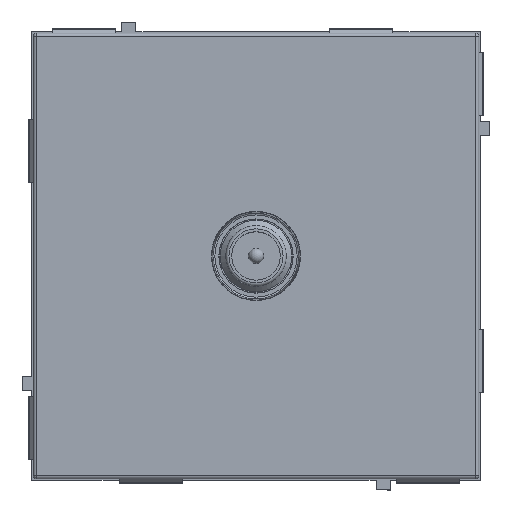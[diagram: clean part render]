
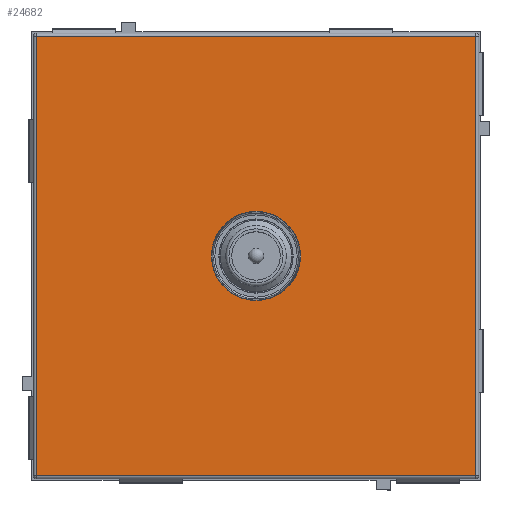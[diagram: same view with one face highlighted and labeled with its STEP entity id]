
A CAD part, top view. The second image highlights one B-rep face of the part: STEP entity #24682.
In plain terms, the highlighted planar face has unit normal (0, 0, 1).
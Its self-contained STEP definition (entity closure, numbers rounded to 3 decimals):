
#275 = DIRECTION ( 'NONE',  ( 0., -1., 0. ) ) ;
#313 = DIRECTION ( 'NONE',  ( -1., 0., 0. ) ) ;
#564 = CARTESIAN_POINT ( 'NONE',  ( 0., -7., 6.1 ) ) ;
#1058 = DIRECTION ( 'NONE',  ( 0., 1., 0. ) ) ;
#1075 = DIRECTION ( 'NONE',  ( 0., 1., 0. ) ) ;
#1773 = ORIENTED_EDGE ( 'NONE', *, *, #7005, .T. ) ;
#2360 = AXIS2_PLACEMENT_3D ( 'NONE', #12095, #21009, #1058 ) ;
#2364 = EDGE_CURVE ( 'NONE', #19812, #24051, #18946, .T. ) ;
#3104 = CARTESIAN_POINT ( 'NONE',  ( 34.5, 0., 6.1 ) ) ;
#3308 = CARTESIAN_POINT ( 'NONE',  ( -34.5, 34.5, 6.1 ) ) ;
#3582 = AXIS2_PLACEMENT_3D ( 'NONE', #13357, #28638, #275 ) ;
#3590 = ORIENTED_EDGE ( 'NONE', *, *, #19467, .F. ) ;
#4521 = LINE ( 'NONE', #13552, #15463 ) ;
#4532 = CIRCLE ( 'NONE', #3582, 7. ) ;
#5555 = LINE ( 'NONE', #3104, #26199 ) ;
#7005 = EDGE_CURVE ( 'NONE', #11650, #27758, #5555, .T. ) ;
#8817 = CARTESIAN_POINT ( 'NONE',  ( 0., -34.5, 6.1 ) ) ;
#10343 = CARTESIAN_POINT ( 'NONE',  ( 34.5, -34.5, 6.1 ) ) ;
#11293 = DIRECTION ( 'NONE',  ( 1., 0., 0. ) ) ;
#11650 = VERTEX_POINT ( 'NONE', #10343 ) ;
#12095 = CARTESIAN_POINT ( 'NONE',  ( 0., 0., 6.1 ) ) ;
#12229 = CARTESIAN_POINT ( 'NONE',  ( -34.5, 0., 6.1 ) ) ;
#12584 = CARTESIAN_POINT ( 'NONE',  ( -34.5, -34.5, 6.1 ) ) ;
#13357 = CARTESIAN_POINT ( 'NONE',  ( 0., 0., 6.1 ) ) ;
#13552 = CARTESIAN_POINT ( 'NONE',  ( 0., 34.5, 6.1 ) ) ;
#14487 = EDGE_LOOP ( 'NONE', ( #3590 ) ) ;
#14592 = ORIENTED_EDGE ( 'NONE', *, *, #2364, .T. ) ;
#14710 = EDGE_CURVE ( 'NONE', #24051, #11650, #18009, .T. ) ;
#15463 = VECTOR ( 'NONE', #313, 1000. ) ;
#16498 = FACE_BOUND ( 'NONE', #14487, .T. ) ;
#17039 = ORIENTED_EDGE ( 'NONE', *, *, #26217, .T. ) ;
#18009 = LINE ( 'NONE', #8817, #24435 ) ;
#18402 = FACE_OUTER_BOUND ( 'NONE', #25972, .T. ) ;
#18946 = LINE ( 'NONE', #12229, #19540 ) ;
#19467 = EDGE_CURVE ( 'NONE', #20366, #20366, #4532, .T. ) ;
#19540 = VECTOR ( 'NONE', #23891, 1000. ) ;
#19812 = VERTEX_POINT ( 'NONE', #3308 ) ;
#20366 = VERTEX_POINT ( 'NONE', #564 ) ;
#21009 = DIRECTION ( 'NONE',  ( 0., 0., -1. ) ) ;
#22264 = ORIENTED_EDGE ( 'NONE', *, *, #14710, .T. ) ;
#23891 = DIRECTION ( 'NONE',  ( 0., -1., 0. ) ) ;
#24051 = VERTEX_POINT ( 'NONE', #12584 ) ;
#24435 = VECTOR ( 'NONE', #11293, 1000. ) ;
#24682 = ADVANCED_FACE ( 'NONE', ( #18402, #16498 ), #25358, .F. ) ;
#25358 = PLANE ( 'NONE',  #2360 ) ;
#25418 = CARTESIAN_POINT ( 'NONE',  ( 34.5, 34.5, 6.1 ) ) ;
#25972 = EDGE_LOOP ( 'NONE', ( #1773, #17039, #14592, #22264 ) ) ;
#26199 = VECTOR ( 'NONE', #1075, 1000. ) ;
#26217 = EDGE_CURVE ( 'NONE', #27758, #19812, #4521, .T. ) ;
#27758 = VERTEX_POINT ( 'NONE', #25418 ) ;
#28638 = DIRECTION ( 'NONE',  ( 0., 0., 1. ) ) ;
